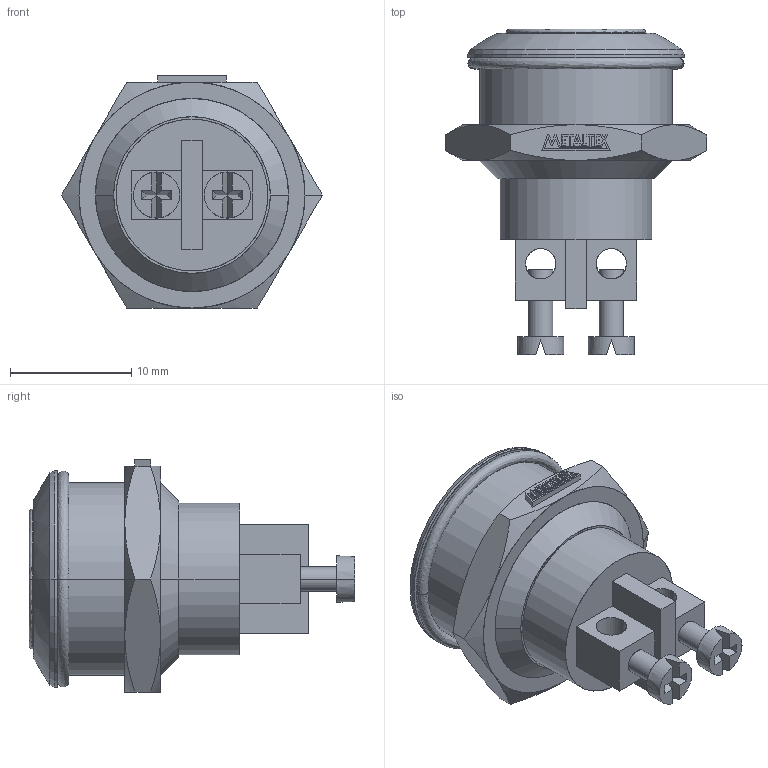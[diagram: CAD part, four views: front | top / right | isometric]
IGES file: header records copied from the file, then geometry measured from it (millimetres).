
Start section: SolidWorks IGES file using analytic representation for surfaces
Global section: file name: D:\X - Arquivos\PROEX\Empresas\P11 - METALTEX\01 - Produtos\IGES\Segunda remessa\AV16FA.IGS; native system: SolidWorks 2012; preprocessor: SolidWorks 2012; author: Usuario; date: 180117.123141; units: millimetre
Bounding box: 21.5 x 26.83 x 19.12 mm (x, y, z)
Surface area: 2050.5 mm2 (no closed solid volume)
Topology: 0 solids, 0 shells, 201 faces, 2074 edges, 2074 vertices
Faces by surface type: bspline 155, revolution 46
